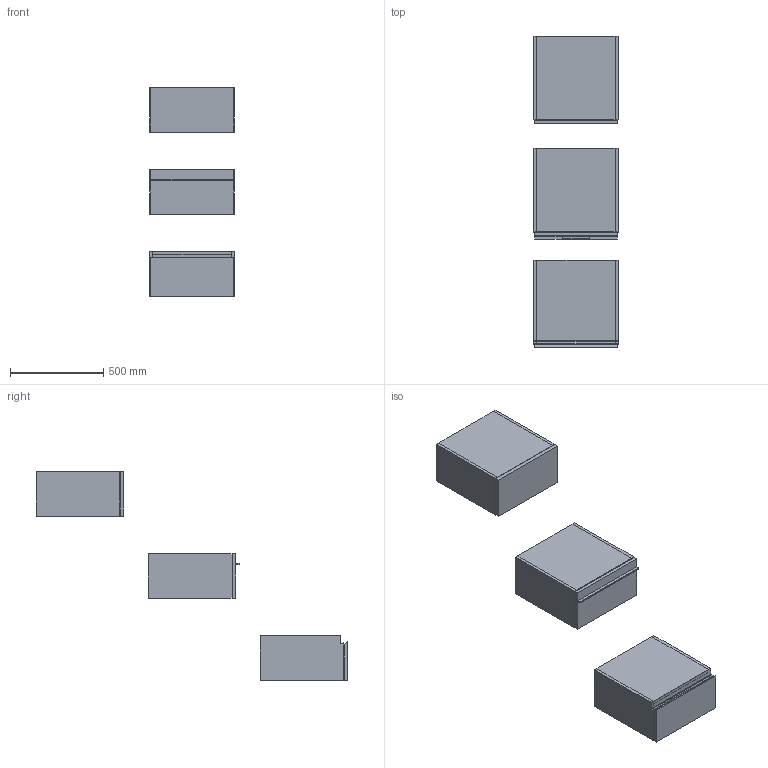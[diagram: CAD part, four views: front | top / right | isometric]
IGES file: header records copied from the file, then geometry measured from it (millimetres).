
Start section: Data from Parasolid IGES Translator 19.0.9, Copyright(c) 2006 Siemens PL M Software. All Rights Reserved.
Global section: file name: noorth-SI-H 24 D 47 W 45_8290.igs; native system: By Siemens PLM Incorporated; preprocessor: XPlus GENERIC/IGES 19.0.9; author: Noname; organization: Noname; date: 20200530.113602; units: metre
Bounding box: 450.01 x 1669.1 x 1120 mm (x, y, z)
Volume: 34819422.8 mm3; surface area: 5121306 mm2
Topology: 20 solids, 20 shells, 178 faces, 382 edges, 234 vertices
Faces by surface type: plane 134, extrusion 16, bspline 16, cylinder 12
